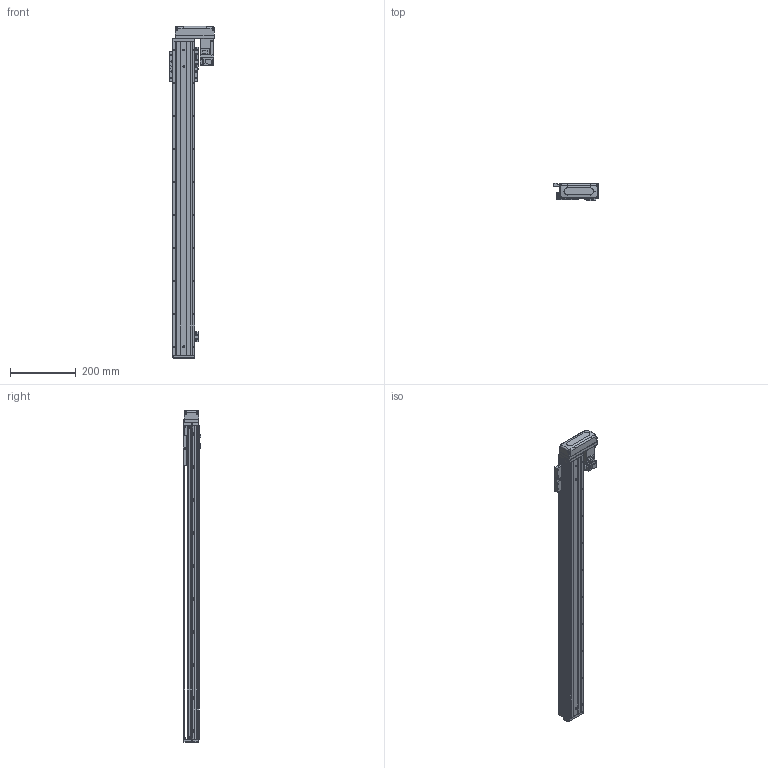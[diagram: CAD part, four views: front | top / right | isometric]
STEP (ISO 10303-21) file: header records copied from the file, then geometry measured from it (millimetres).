
FILE_DESCRIPTION (( 'STEP AP203' ), '1' );
FILE_NAME ('KTHAL60-800-BL-M10-C4L.step', '2022-03-19T08:39:21', ( '微软用户' ), ( '微软中国' ), 'SwSTEP 2.0', 'SolidWorks 2020', '' );
FILE_SCHEMA (( 'CONFIG_CONTROL_DESIGN' ));
Length unit declared in the file: millimetre
Products named in the file (18): KTHA60-001_950; CTHA60-017; CTHA60-015-2_CTHA60-015-2; KTHLA60-002; CTHA60-021; CTHA60-033; KTHA60-004; GBT 70.1-M4×16; GBT 70.1-M3×15; KTHA60-005; GBT77-2000M3-3; KTHAL60-800-BL-M10-C4L; GB¨uT 70.2-M3¡Á5_M3¡Á6; GBT 70.1-M3℅6; GBT 70.3-M3℅6; CTHA60-016; EE_SX911P_R; HG-KR13（三菱）
Assembly tree (51 placements, depth 2):
  KTHAL60-800-BL-M10-C4L
    KTHA60-001_950
    KTHLA60-002
    KTHA60-004
    KTHA60-005
    GB¨uT 70.2-M3¡Á5_M3¡Á6  x5
    GBT 70.3-M3℅6  x4
    EE_SX911P_R  x3
    CTHA60-017  x3
    CTHA60-021  x2
    GBT 70.1-M4×16  x10
    GBT77-2000M3-3  x6
    GBT 70.1-M3℅6  x6
    CTHA60-016
    HG-KR13（三菱）
    CTHA60-015-2_CTHA60-015-2
    CTHA60-033
    GBT 70.1-M3×15  x4
Bounding box: 137 x 53.3 x 1007 mm (x, y, z)
Volume: 2026110.7 mm3; surface area: 501113.3 mm2
Topology: 54 solids, 54 shells, 2355 faces, 5611 edges, 3449 vertices
Faces by surface type: plane 1348, cylinder 577, cone 292, torus 98, bspline 26, sphere 14
Entity records: 41931 total; most frequent: CARTESIAN_POINT 7896, DIRECTION 6573, ORIENTED_EDGE 6366, EDGE_CURVE 3183, AXIS2_PLACEMENT_3D 2193, LINE 2187, VECTOR 2187, VERTEX_POINT 1998
